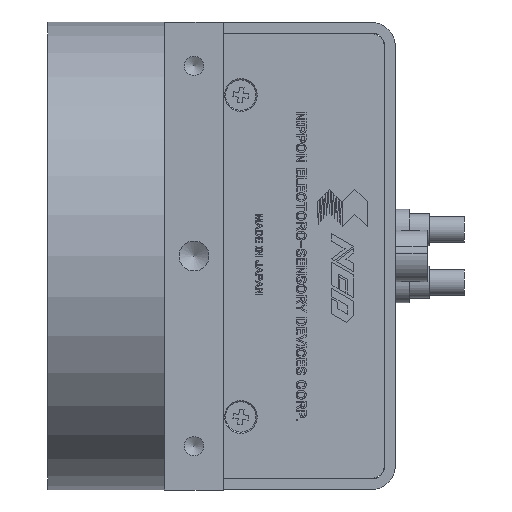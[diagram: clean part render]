
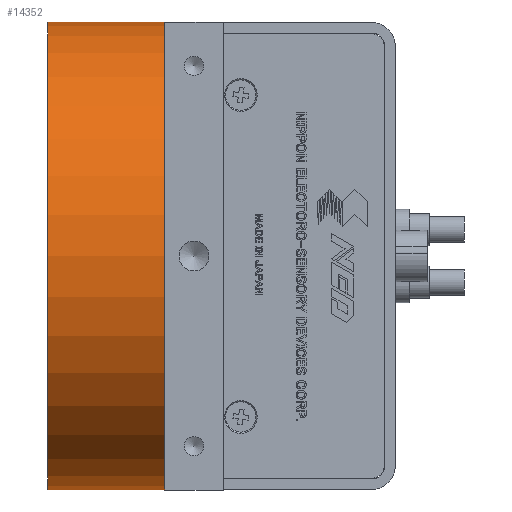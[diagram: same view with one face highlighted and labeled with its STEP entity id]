
A CAD part, front view. The second image highlights one B-rep face of the part: STEP entity #14352.
In plain terms, the highlighted cylindrical face has radius 40 mm (diameter 80 mm), a full revolution.
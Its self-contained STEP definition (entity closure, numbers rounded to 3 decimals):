
#14352 = ADVANCED_FACE ( 'NONE', ( #237842, #54144 ), #142656, .T. ) ;
#21477 = ORIENTED_EDGE ( 'NONE', *, *, #211389, .F. ) ;
#54144 = FACE_OUTER_BOUND ( 'NONE', #166251, .T. ) ;
#63585 = CARTESIAN_POINT ( 'NONE',  ( 0., 0., -40. ) ) ;
#79841 = CARTESIAN_POINT ( 'NONE',  ( 20., 0., 0. ) ) ;
#83543 = AXIS2_PLACEMENT_3D ( 'NONE', #79841, #232092, #145505 ) ;
#116904 = EDGE_LOOP ( 'NONE', ( #21477 ) ) ;
#116928 = EDGE_CURVE ( 'NONE', #130025, #130025, #249626, .T. ) ;
#130025 = VERTEX_POINT ( 'NONE', #63585 ) ;
#131701 = DIRECTION ( 'NONE',  ( 0., 0., -1. ) ) ;
#142656 = CYLINDRICAL_SURFACE ( 'NONE', #83543, 40. ) ;
#142795 = AXIS2_PLACEMENT_3D ( 'NONE', #158520, #245003, #244064 ) ;
#143146 = VERTEX_POINT ( 'NONE', #204353 ) ;
#145505 = DIRECTION ( 'NONE',  ( 0., 0., 1. ) ) ;
#158520 = CARTESIAN_POINT ( 'NONE',  ( 0., 0., 0. ) ) ;
#166251 = EDGE_LOOP ( 'NONE', ( #216552 ) ) ;
#183480 = AXIS2_PLACEMENT_3D ( 'NONE', #260974, #196384, #131701 ) ;
#183912 = CIRCLE ( 'NONE', #183480, 40. ) ;
#196384 = DIRECTION ( 'NONE',  ( 1., 0., 0. ) ) ;
#204353 = CARTESIAN_POINT ( 'NONE',  ( 20., 0., -40. ) ) ;
#211389 = EDGE_CURVE ( 'NONE', #143146, #143146, #183912, .T. ) ;
#216552 = ORIENTED_EDGE ( 'NONE', *, *, #116928, .T. ) ;
#232092 = DIRECTION ( 'NONE',  ( -1., 0., 0. ) ) ;
#237842 = FACE_OUTER_BOUND ( 'NONE', #116904, .T. ) ;
#244064 = DIRECTION ( 'NONE',  ( 0., 0., -1. ) ) ;
#245003 = DIRECTION ( 'NONE',  ( 1., 0., 0. ) ) ;
#249626 = CIRCLE ( 'NONE', #142795, 40. ) ;
#260974 = CARTESIAN_POINT ( 'NONE',  ( 20., 0., 0. ) ) ;
